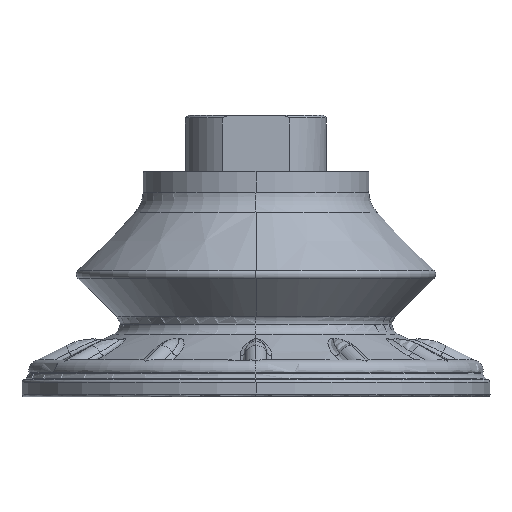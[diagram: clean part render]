
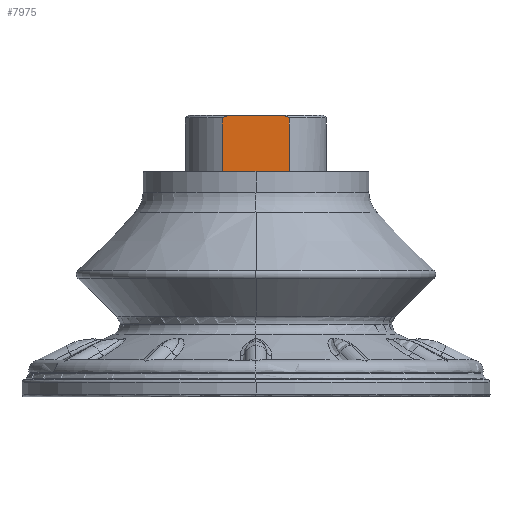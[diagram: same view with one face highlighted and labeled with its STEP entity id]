
A CAD part, front view. The second image highlights one B-rep face of the part: STEP entity #7975.
In plain terms, the highlighted planar face has unit normal (-0.004, -1, 0).
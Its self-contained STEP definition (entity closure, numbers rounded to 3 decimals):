
#267 = CARTESIAN_POINT ( 'NONE',  ( -5.976, -10.979, 21.167 ) ) ;
#293 = CARTESIAN_POINT ( 'NONE',  ( -4.834, -10.983, 28. ) ) ;
#1042 = EDGE_CURVE ( 'NONE', #3195, #1060, #4383, .T. ) ;
#1060 = VERTEX_POINT ( 'NONE', #10174 ) ;
#1159 = CARTESIAN_POINT ( 'NONE',  ( 5.13, -11.018, 27.851 ) ) ;
#1194 = CARTESIAN_POINT ( 'NONE',  ( 5.899, -11.021, 18. ) ) ;
#1311 = PLANE ( 'NONE',  #8888 ) ;
#1526 = CARTESIAN_POINT ( 'NONE',  ( 5.899, -11.021, 27.5 ) ) ;
#1861 = VERTEX_POINT ( 'NONE', #5139 ) ;
#1998 = B_SPLINE_CURVE_WITH_KNOTS ( 'NONE', 3,
 ( #293, #4438, #11439, #12569 ),
 .UNSPECIFIED., .F., .F.,
 ( 4, 4 ),
 ( 0., 1. ),
 .UNSPECIFIED. ) ;
#2193 = EDGE_CURVE ( 'NONE', #8176, #1861, #1998, .T. ) ;
#2574 = VERTEX_POINT ( 'NONE', #6397 ) ;
#2869 = CARTESIAN_POINT ( 'NONE',  ( -5.976, -10.979, 18. ) ) ;
#3040 = VERTEX_POINT ( 'NONE', #7536 ) ;
#3135 = CARTESIAN_POINT ( 'NONE',  ( -2.017, -10.993, 18. ) ) ;
#3195 = VERTEX_POINT ( 'NONE', #1526 ) ;
#3931 = B_SPLINE_CURVE_WITH_KNOTS ( 'NONE', 3,
 ( #9043, #3978, #7100, #12123 ),
 .UNSPECIFIED., .F., .F.,
 ( 4, 4 ),
 ( 0., 1. ),
 .UNSPECIFIED. ) ;
#3978 = CARTESIAN_POINT ( 'NONE',  ( -1.637, -10.994, 28. ) ) ;
#4383 = B_SPLINE_CURVE_WITH_KNOTS ( 'NONE', 3,
 ( #6229, #10239, #1159, #9358 ),
 .UNSPECIFIED., .F., .F.,
 ( 4, 4 ),
 ( 0., 1. ),
 .UNSPECIFIED. ) ;
#4405 = CARTESIAN_POINT ( 'NONE',  ( 1.941, -11.007, 18. ) ) ;
#4438 = CARTESIAN_POINT ( 'NONE',  ( -5.207, -10.982, 27.851 ) ) ;
#4446 = CARTESIAN_POINT ( 'NONE',  ( -4.834, -10.983, 28. ) ) ;
#4534 = ORIENTED_EDGE ( 'NONE', *, *, #5207, .F. ) ;
#5139 = CARTESIAN_POINT ( 'NONE',  ( -5.976, -10.979, 27.5 ) ) ;
#5178 = CARTESIAN_POINT ( 'NONE',  ( 5.899, -11.021, 27.5 ) ) ;
#5207 = EDGE_CURVE ( 'NONE', #3040, #1861, #5230, .T. ) ;
#5230 = B_SPLINE_CURVE_WITH_KNOTS ( 'NONE', 3,
 ( #7453, #267, #10669, #8463 ),
 .UNSPECIFIED., .F., .F.,
 ( 4, 4 ),
 ( 0., 1. ),
 .UNSPECIFIED. ) ;
#6229 = CARTESIAN_POINT ( 'NONE',  ( 5.899, -11.021, 27.5 ) ) ;
#6341 = EDGE_CURVE ( 'NONE', #3040, #2574, #11955, .T. ) ;
#6382 = DIRECTION ( 'NONE',  ( -1., 0.003, 0. ) ) ;
#6397 = CARTESIAN_POINT ( 'NONE',  ( 5.899, -11.021, 18. ) ) ;
#7100 = CARTESIAN_POINT ( 'NONE',  ( 1.56, -11.006, 28. ) ) ;
#7362 = CARTESIAN_POINT ( 'NONE',  ( 5.899, -11.021, 21.167 ) ) ;
#7453 = CARTESIAN_POINT ( 'NONE',  ( -5.976, -10.979, 18. ) ) ;
#7536 = CARTESIAN_POINT ( 'NONE',  ( -5.976, -10.979, 18. ) ) ;
#7975 = ADVANCED_FACE ( 'NONE', ( #10392 ), #1311, .T. ) ;
#8142 = EDGE_CURVE ( 'NONE', #2574, #3195, #11907, .T. ) ;
#8176 = VERTEX_POINT ( 'NONE', #4446 ) ;
#8463 = CARTESIAN_POINT ( 'NONE',  ( -5.976, -10.979, 27.5 ) ) ;
#8739 = ORIENTED_EDGE ( 'NONE', *, *, #2193, .T. ) ;
#8844 = EDGE_LOOP ( 'NONE', ( #11535, #12931, #9133, #11470, #8739, #4534 ) ) ;
#8888 = AXIS2_PLACEMENT_3D ( 'NONE', #10584, #9447, #6382 ) ;
#8967 = EDGE_CURVE ( 'NONE', #8176, #1060, #3931, .T. ) ;
#9043 = CARTESIAN_POINT ( 'NONE',  ( -4.834, -10.983, 28. ) ) ;
#9133 = ORIENTED_EDGE ( 'NONE', *, *, #1042, .T. ) ;
#9358 = CARTESIAN_POINT ( 'NONE',  ( 4.757, -11.017, 28. ) ) ;
#9447 = DIRECTION ( 'NONE',  ( -0.003, -1., 0. ) ) ;
#10174 = CARTESIAN_POINT ( 'NONE',  ( 4.757, -11.017, 28. ) ) ;
#10239 = CARTESIAN_POINT ( 'NONE',  ( 5.511, -11.019, 27.684 ) ) ;
#10392 = FACE_OUTER_BOUND ( 'NONE', #8844, .T. ) ;
#10584 = CARTESIAN_POINT ( 'NONE',  ( -0.038, -11., 23. ) ) ;
#10669 = CARTESIAN_POINT ( 'NONE',  ( -5.976, -10.979, 24.333 ) ) ;
#11439 = CARTESIAN_POINT ( 'NONE',  ( -5.587, -10.981, 27.684 ) ) ;
#11470 = ORIENTED_EDGE ( 'NONE', *, *, #8967, .F. ) ;
#11515 = CARTESIAN_POINT ( 'NONE',  ( 5.899, -11.021, 24.333 ) ) ;
#11535 = ORIENTED_EDGE ( 'NONE', *, *, #6341, .T. ) ;
#11907 = B_SPLINE_CURVE_WITH_KNOTS ( 'NONE', 3,
 ( #12452, #7362, #11515, #5178 ),
 .UNSPECIFIED., .F., .F.,
 ( 4, 4 ),
 ( 0., 1. ),
 .UNSPECIFIED. ) ;
#11955 = B_SPLINE_CURVE_WITH_KNOTS ( 'NONE', 3,
 ( #2869, #3135, #4405, #1194 ),
 .UNSPECIFIED., .F., .F.,
 ( 4, 4 ),
 ( 0., 1. ),
 .UNSPECIFIED. ) ;
#12123 = CARTESIAN_POINT ( 'NONE',  ( 4.757, -11.017, 28. ) ) ;
#12452 = CARTESIAN_POINT ( 'NONE',  ( 5.899, -11.021, 18. ) ) ;
#12569 = CARTESIAN_POINT ( 'NONE',  ( -5.976, -10.979, 27.5 ) ) ;
#12931 = ORIENTED_EDGE ( 'NONE', *, *, #8142, .T. ) ;
